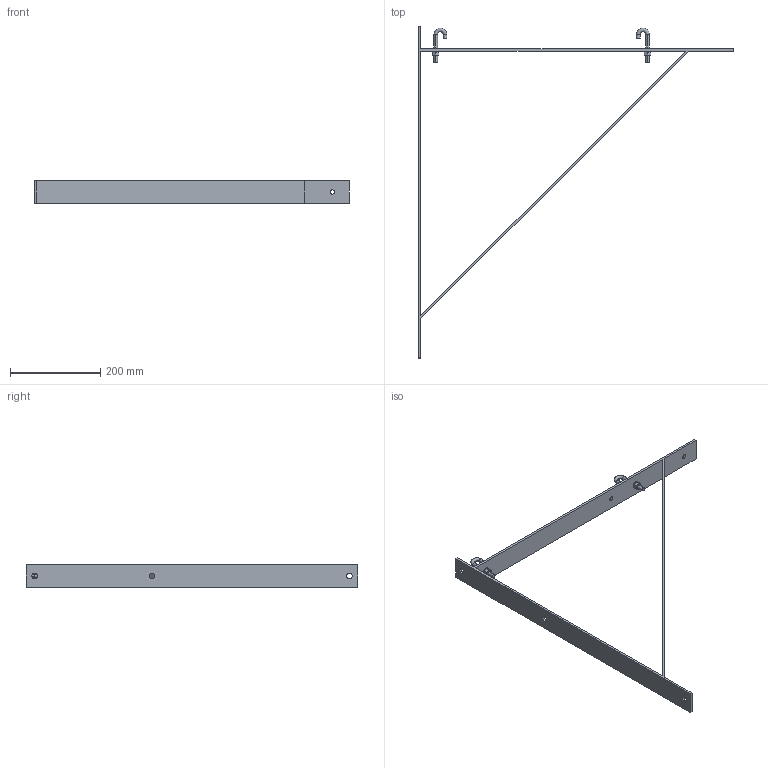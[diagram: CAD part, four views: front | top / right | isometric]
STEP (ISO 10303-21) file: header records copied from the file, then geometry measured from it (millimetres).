
FILE_DESCRIPTION (( 'STEP AP203' ), '1' );
FILE_NAME ('ltsb151824blk.STEP', '2015-05-21T17:57:22', ( '' ), ( '' ), 'SwSTEP 2.0', 'SolidWorks 2010', '' );
FILE_SCHEMA (( 'CONFIG_CONTROL_DESIGN' ));
Length unit declared in the file: inch
Products named in the file (5): ltsb151824blk; TriangleSupportBracket6and12inch_15_18_24; Hook_3in; WasherLock.31; Nut.31
Assembly tree (7 placements, depth 2):
  ltsb151824blk
    Hook_3in  x2
    WasherLock.31  x2
    Nut.31  x2
    TriangleSupportBracket6and12inch_15_18_24
Bounding box: 698.5 x 736.6 x 50.8 mm (x, y, z)
Volume: 557822.3 mm3; surface area: 259086.7 mm2
Topology: 7 solids, 7 shells, 112 faces, 254 edges, 156 vertices
Faces by surface type: plane 42, cylinder 34, cone 32, torus 4
Entity records: 2761 total; most frequent: CARTESIAN_POINT 478, DIRECTION 368, ORIENTED_EDGE 332, EDGE_CURVE 166, AXIS2_PLACEMENT_3D 146, VERTEX_POINT 104, EDGE_LOOP 88, LINE 76
